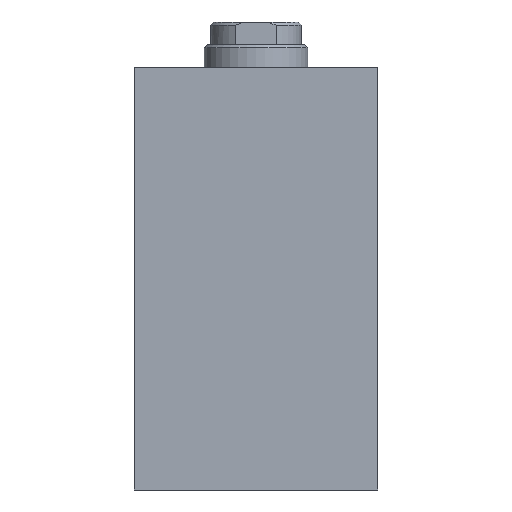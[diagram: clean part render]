
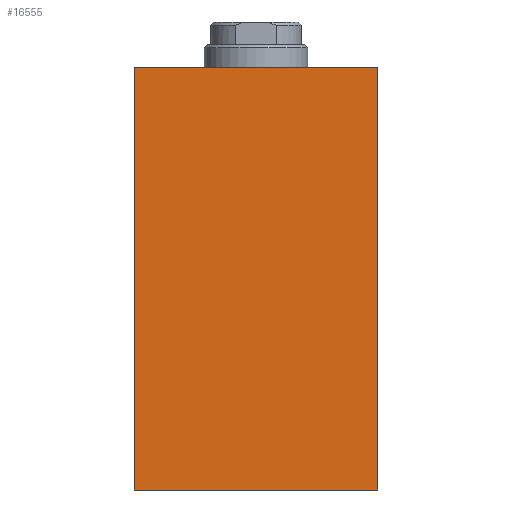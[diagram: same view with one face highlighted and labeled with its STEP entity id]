
A CAD part, front view. The second image highlights one B-rep face of the part: STEP entity #16555.
In plain terms, the highlighted planar face has unit normal (0, -1, 0).
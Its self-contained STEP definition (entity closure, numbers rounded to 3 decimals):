
#36 = FACE_OUTER_BOUND ( 'NONE', #16521, .T. ) ;
#263 = EDGE_CURVE ( 'NONE', #6321, #18520, #18707, .T. ) ;
#436 = EDGE_CURVE ( 'NONE', #13838, #588, #3883, .T. ) ;
#588 = VERTEX_POINT ( 'NONE', #6044 ) ;
#778 = DIRECTION ( 'NONE',  ( 0., 0., -1. ) ) ;
#1317 = DIRECTION ( 'NONE',  ( 1., 0., 0. ) ) ;
#1597 = DIRECTION ( 'NONE',  ( 1., 0., 0. ) ) ;
#2150 = CARTESIAN_POINT ( 'NONE',  ( 0., 0., 130. ) ) ;
#3668 = CARTESIAN_POINT ( 'NONE',  ( 0., 0., 130. ) ) ;
#3883 = LINE ( 'NONE', #11381, #16415 ) ;
#3998 = CARTESIAN_POINT ( 'NONE',  ( 0., 0., 130. ) ) ;
#4247 = CARTESIAN_POINT ( 'NONE',  ( 75., 0., 130. ) ) ;
#4260 = CARTESIAN_POINT ( 'NONE',  ( 75., 0., 130. ) ) ;
#4687 = VECTOR ( 'NONE', #10777, 1000. ) ;
#6044 = CARTESIAN_POINT ( 'NONE',  ( 75., 0., 0. ) ) ;
#6321 = VERTEX_POINT ( 'NONE', #3668 ) ;
#6931 = VECTOR ( 'NONE', #1317, 1000. ) ;
#7241 = EDGE_CURVE ( 'NONE', #18520, #588, #16692, .T. ) ;
#7574 = AXIS2_PLACEMENT_3D ( 'NONE', #2150, #13570, #15212 ) ;
#9058 = VECTOR ( 'NONE', #778, 1000. ) ;
#10777 = DIRECTION ( 'NONE',  ( 0., 0., -1. ) ) ;
#11078 = ORIENTED_EDGE ( 'NONE', *, *, #7241, .F. ) ;
#11307 = ORIENTED_EDGE ( 'NONE', *, *, #14976, .T. ) ;
#11310 = CARTESIAN_POINT ( 'NONE',  ( 0., 0., 130. ) ) ;
#11381 = CARTESIAN_POINT ( 'NONE',  ( 0., 0., 0. ) ) ;
#12192 = ORIENTED_EDGE ( 'NONE', *, *, #263, .F. ) ;
#12684 = ORIENTED_EDGE ( 'NONE', *, *, #436, .T. ) ;
#13426 = LINE ( 'NONE', #3998, #9058 ) ;
#13503 = CARTESIAN_POINT ( 'NONE',  ( 0., 0., 0. ) ) ;
#13570 = DIRECTION ( 'NONE',  ( 0., 1., 0. ) ) ;
#13838 = VERTEX_POINT ( 'NONE', #13503 ) ;
#14976 = EDGE_CURVE ( 'NONE', #6321, #13838, #13426, .T. ) ;
#15212 = DIRECTION ( 'NONE',  ( 0., 0., 1. ) ) ;
#16415 = VECTOR ( 'NONE', #1597, 1000. ) ;
#16521 = EDGE_LOOP ( 'NONE', ( #12684, #11078, #12192, #11307 ) ) ;
#16555 = ADVANCED_FACE ( 'NONE', ( #36 ), #17052, .F. ) ;
#16692 = LINE ( 'NONE', #4260, #4687 ) ;
#17052 = PLANE ( 'NONE',  #7574 ) ;
#18520 = VERTEX_POINT ( 'NONE', #4247 ) ;
#18707 = LINE ( 'NONE', #11310, #6931 ) ;
